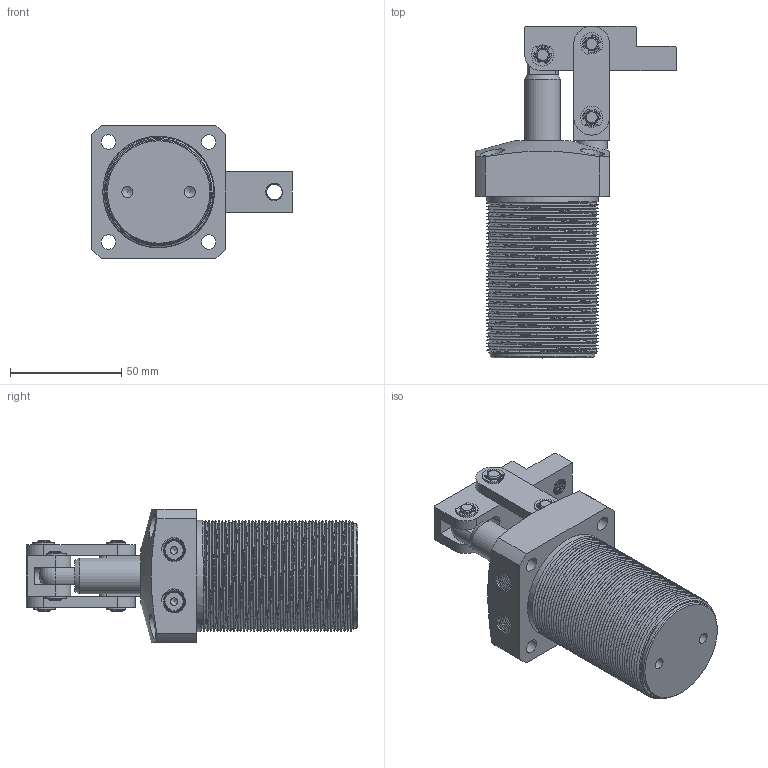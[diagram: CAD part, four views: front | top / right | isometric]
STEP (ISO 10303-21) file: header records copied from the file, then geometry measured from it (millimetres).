
FILE_DESCRIPTION(/* description */ (''),/* implementation_level */ '2;1');
FILE_NAME(/* name */ 'E:\SERWER_ZAPAS\MODELE brakujace\PNEUMATIC\CPLCU(STEP)\cplcu-32_asm\CPLCU-32_ZAMKNIETY.stp',/* time_stamp */ '2019-02-08T14:04:27+01:00',/* author */ ('Admin'),/* organization */ (''),/* preprocessor_version */ 'ST-DEVELOPER v17.2',/* originating_system */ 'Autodesk Inventor 2019',/* authorisation */ '');
FILE_SCHEMA (('AUTOMOTIVE_DESIGN { 1 0 10303 214 3 1 1 }'));
Products named in the file (10): CPLCU-32_ZAMKNIETY; CPLCU-32-06; CPLCU-32-07; CPLCU-32-01; CPLCU-32-05; CPLCU-32-02; CPLCU-32-08; CPLCU-32-03; CPLCU-32-04; LHC01D-32-01
Assembly tree (21 placements, depth 2):
  CPLCU-32_ZAMKNIETY
    CPLCU-32-06
    CPLCU-32-07
    CPLCU-32-01
    CPLCU-32-08  x6
    CPLCU-32-05
    CPLCU-32-02  x2
    CPLCU-32-03
    CPLCU-32-04  x2
    LHC01D-32-01  x6
Bounding box: 90 x 149 x 60 mm (x, y, z)
Volume: 217297.4 mm3; surface area: 70575.7 mm2
Topology: 21 solids, 21 shells, 551 faces, 1507 edges, 1028 vertices
Faces by surface type: cylinder 246, plane 150, cone 82, bspline 65, torus 7, sphere 1
Full cylindrical faces by diameter (mm): 3.3 x2, 3.4 x10, 5 x8, 6 x18, 6.5 x4, 7 x11, 8 x13, 8.4 x9, 10 x6, 11 x4, 14 x2, 16 x2, 24.5 x1, 28 x2, 32 x4, 47 x1, 50 x44
Entity records: 45174 total; most frequent: CARTESIAN_POINT 35622, ORIENTED_EDGE 2084, DIRECTION 1635, EDGE_CURVE 1042, VERTEX_POINT 715, AXIS2_PLACEMENT_3D 641, EDGE_LOOP 438, B_SPLINE_CURVE_WITH_KNOTS 386
